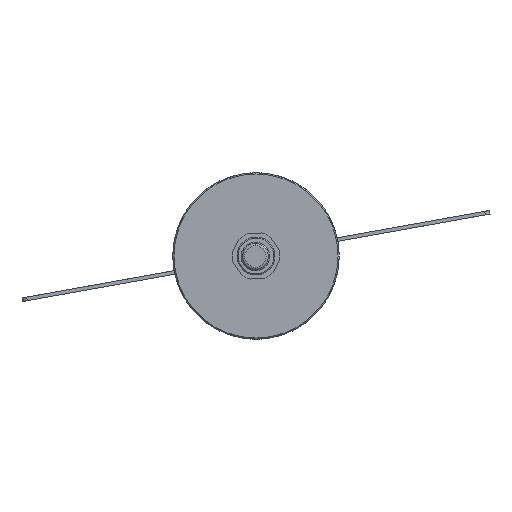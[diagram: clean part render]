
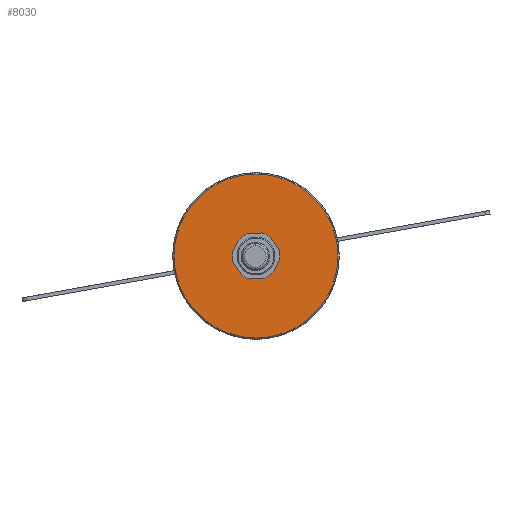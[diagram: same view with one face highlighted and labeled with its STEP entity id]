
A CAD part, left-side view. The second image highlights one B-rep face of the part: STEP entity #8030.
In plain terms, the highlighted planar face has unit normal (-1, 0, 0).
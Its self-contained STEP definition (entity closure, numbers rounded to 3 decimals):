
#232 = DIRECTION ( 'NONE',  ( 0., 0., 1. ) ) ;
#386 = DIRECTION ( 'NONE',  ( -1., 0., 0. ) ) ;
#673 = CARTESIAN_POINT ( 'NONE',  ( -105., 0., 0. ) ) ;
#2922 = CIRCLE ( 'NONE', #6205, 34.5 ) ;
#3102 = CARTESIAN_POINT ( 'NONE',  ( -105., 35., 0. ) ) ;
#3942 = CIRCLE ( 'NONE', #18315, 6.05 ) ;
#4241 = CARTESIAN_POINT ( 'NONE',  ( -105., 0., -6.05 ) ) ;
#4413 = CARTESIAN_POINT ( 'NONE',  ( -105., 0., 0. ) ) ;
#5037 = FACE_OUTER_BOUND ( 'NONE', #15626, .T. ) ;
#5470 = EDGE_CURVE ( 'NONE', #9310, #19743, #3942, .T. ) ;
#6037 = ORIENTED_EDGE ( 'NONE', *, *, #9278, .F. ) ;
#6205 = AXIS2_PLACEMENT_3D ( 'NONE', #10001, #17853, #232 ) ;
#6585 = CARTESIAN_POINT ( 'NONE',  ( -105., 0., 6.05 ) ) ;
#7989 = CIRCLE ( 'NONE', #22387, 6.05 ) ;
#8030 = ADVANCED_FACE ( 'NONE', ( #5037, #12865 ), #20731, .T. ) ;
#8223 = DIRECTION ( 'NONE',  ( 0., 0., 1. ) ) ;
#8514 = DIRECTION ( 'NONE',  ( -1., 0., 0. ) ) ;
#9278 = EDGE_CURVE ( 'NONE', #19743, #9310, #7989, .T. ) ;
#9310 = VERTEX_POINT ( 'NONE', #6585 ) ;
#9685 = CIRCLE ( 'NONE', #24087, 34.5 ) ;
#10001 = CARTESIAN_POINT ( 'NONE',  ( -105., 0., 0. ) ) ;
#10580 = AXIS2_PLACEMENT_3D ( 'NONE', #3102, #10948, #18801 ) ;
#10891 = VERTEX_POINT ( 'NONE', #19445 ) ;
#10948 = DIRECTION ( 'NONE',  ( -1., 0., 0. ) ) ;
#11115 = EDGE_CURVE ( 'NONE', #19791, #10891, #9685, .T. ) ;
#12251 = DIRECTION ( 'NONE',  ( -1., 0., 0. ) ) ;
#12865 = FACE_BOUND ( 'NONE', #15213, .T. ) ;
#14445 = ORIENTED_EDGE ( 'NONE', *, *, #11115, .T. ) ;
#15192 = ORIENTED_EDGE ( 'NONE', *, *, #25328, .T. ) ;
#15213 = EDGE_LOOP ( 'NONE', ( #15524, #6037 ) ) ;
#15524 = ORIENTED_EDGE ( 'NONE', *, *, #5470, .F. ) ;
#15626 = EDGE_LOOP ( 'NONE', ( #14445, #15192 ) ) ;
#16372 = DIRECTION ( 'NONE',  ( 0., 0., 1. ) ) ;
#17853 = DIRECTION ( 'NONE',  ( -1., 0., 0. ) ) ;
#18010 = CARTESIAN_POINT ( 'NONE',  ( -105., 0., 0. ) ) ;
#18315 = AXIS2_PLACEMENT_3D ( 'NONE', #4413, #12251, #20114 ) ;
#18801 = DIRECTION ( 'NONE',  ( 0., 0., 1. ) ) ;
#19445 = CARTESIAN_POINT ( 'NONE',  ( -105., 0., 34.5 ) ) ;
#19743 = VERTEX_POINT ( 'NONE', #4241 ) ;
#19791 = VERTEX_POINT ( 'NONE', #22139 ) ;
#20114 = DIRECTION ( 'NONE',  ( 0., 0., 1. ) ) ;
#20731 = PLANE ( 'NONE',  #10580 ) ;
#22139 = CARTESIAN_POINT ( 'NONE',  ( -105., 0., -34.5 ) ) ;
#22387 = AXIS2_PLACEMENT_3D ( 'NONE', #673, #8514, #16372 ) ;
#24087 = AXIS2_PLACEMENT_3D ( 'NONE', #18010, #386, #8223 ) ;
#25328 = EDGE_CURVE ( 'NONE', #10891, #19791, #2922, .T. ) ;
